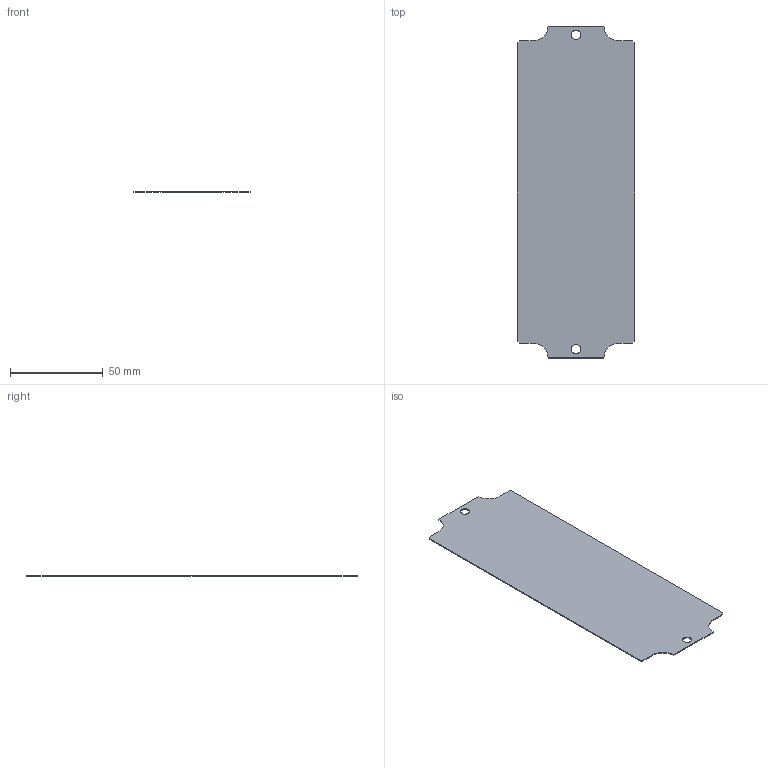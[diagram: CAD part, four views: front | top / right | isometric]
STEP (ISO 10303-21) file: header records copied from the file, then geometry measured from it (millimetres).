
FILE_DESCRIPTION((''),'2;1');
FILE_NAME('c:\temp\131PL.stp','2006-07-18T13:50:23',('kbond'),(''),'Autodesk Inventor 11','Autodesk Inventor 11','');
FILE_SCHEMA(('AUTOMOTIVE_DESIGN { 1 0 10303 214 1 1 1 1 }'));
Length unit declared in the file: millimetre
Products named in the file (1): 131PL
Bounding box: 63 x 178.5 x 0.5 mm (x, y, z)
Volume: 5365.6 mm3; surface area: 21711.5 mm2
Topology: 1 solids, 1 shells, 20 faces, 56 edges, 38 vertices
Faces by surface type: plane 14, cylinder 4, bspline 2
Entity records: 677 total; most frequent: CARTESIAN_POINT 143, ORIENTED_EDGE 104, DIRECTION 102, EDGE_CURVE 52, VECTOR 40, LINE 40, VERTEX_POINT 36, AXIS2_PLACEMENT_3D 31
